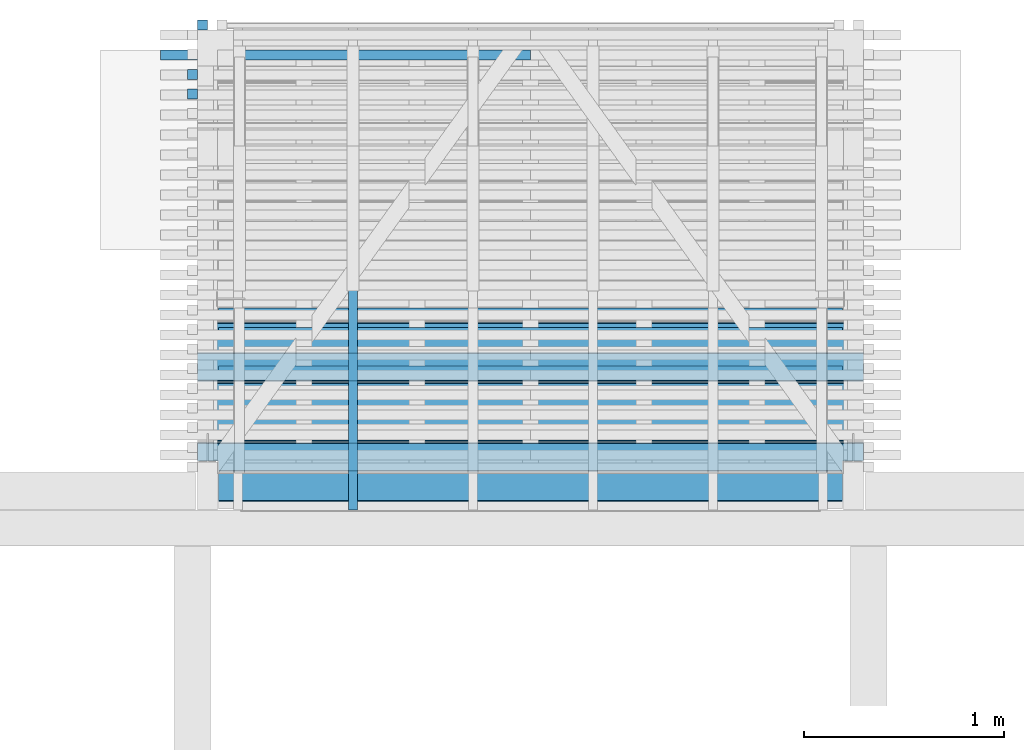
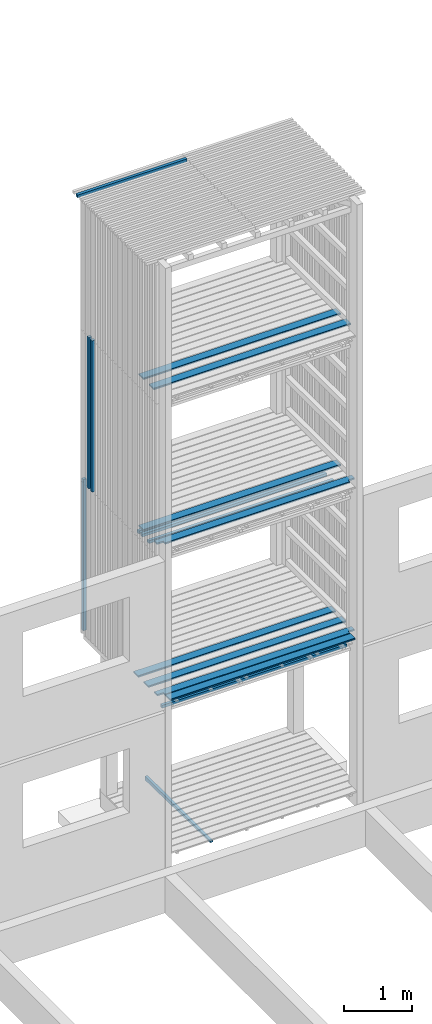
# One storey, part 15 of 182: 17 beams.
"""IFC2X3 building model written with IfcOpenShell, lengths in metres."""

from ifc_helpers import new_model, si_unit, frame, origin, place, context, project, spatial, faceted_brep, element, save


model = new_model("IFC2X3")

# Units and contexts
model_context = context("Model", 3, precision=1e-06, world=origin())
ifc_project = project(units=[si_unit("LENGTHUNIT", "METRE"), si_unit("PLANEANGLEUNIT", "RADIAN")], contexts=[model_context])

# Site, building, storey
site = spatial("IfcSite", under=ifc_project, CompositionType="ELEMENT")
building = spatial("IfcBuilding", under=site, CompositionType="ELEMENT")
storey = spatial("IfcBuildingStorey", under=building, Name="vs", CompositionType="ELEMENT", Elevation=-0.85)

# Beams
placement = place(None, origin())
beam_1_placement = place(placement, frame((6.539197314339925, 11.358202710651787, 5.167999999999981), z_axis=(0.0, 0.0, 1.0), x_axis=(-1.0, -1e-15, 0.0)))
element("IfcBeam", 1, at=beam_1_placement, inside=storey, Name="Bardage", context=model_context, shape_type="Brep", body=[
    faceted_brep([(3.120000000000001, 0.024999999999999, -0.025), (3.120000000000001, -0.025000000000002, -0.025), (-3e-15, -0.025000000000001, -0.025), (-3e-15, 0.025000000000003, -0.025), (-3e-15, -0.025000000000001, -0.025), (3.120000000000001, -0.025000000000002, -0.025), (3.120000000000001, -0.025000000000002, 0.025000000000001), (-3e-15, -0.025000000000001, 0.025000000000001), (3.120000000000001, -0.025000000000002, -0.025), (3.120000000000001, 0.024999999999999, -0.025), (3.120000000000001, 0.024999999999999, 0.025000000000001), (3.120000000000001, -0.025000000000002, 0.025000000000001), (3.120000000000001, 0.024999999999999, 0.025000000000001), (3.120000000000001, 0.024999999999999, -0.025), (-3e-15, 0.025000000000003, -0.025), (-3e-15, 0.025000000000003, 0.025000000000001), (-3e-15, -0.025000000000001, 0.025000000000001), (3.120000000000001, -0.025000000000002, 0.025000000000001), (3.120000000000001, 0.024999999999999, 0.025000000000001), (-3e-15, 0.025000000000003, 0.025000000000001), (-3e-15, -0.025000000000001, -0.025), (-3e-15, -0.025000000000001, 0.025000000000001), (-3e-15, 0.025000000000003, 0.025000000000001), (-3e-15, 0.025000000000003, -0.025)], [[[0, 1, 2, 3]], [[4, 5, 6, 7]], [[8, 9, 10, 11]], [[12, 13, 14, 15]], [[16, 17, 18, 19]], [[20, 21, 22, 23]]]),
])
beam_2_placement = place(placement, frame((4.092197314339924, 10.470077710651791, -0.015599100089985), z_axis=(0.0, 0.0, 1.0), x_axis=(0.0, 1.0, 0.0)))
element("IfcBeam", 2, at=beam_2_placement, inside=storey, Name="Calage", context=model_context, shape_type="Brep", body=[
    faceted_brep([(0.0, 0.022499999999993, 0.002600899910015), (1.91000000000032, 0.022499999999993, -0.035599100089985), (1.91000000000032, -0.022500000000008, -0.035599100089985), (0.0, -0.022500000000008, 0.002600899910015), (0.0, -0.022500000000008, 0.035599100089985), (0.0, 0.022499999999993, 0.035599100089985), (0.0, 0.022499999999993, 0.002600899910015), (0.0, -0.022500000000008, 0.002600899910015), (0.0, 0.022499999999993, 0.035599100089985), (0.0, -0.022500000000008, 0.035599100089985), (1.91000000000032, -0.022500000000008, 0.035599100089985), (1.91000000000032, 0.022499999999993, 0.035599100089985), (0.0, 0.022499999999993, 0.002600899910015), (0.0, 0.022499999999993, 0.035599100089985), (1.91000000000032, 0.022499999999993, 0.035599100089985), (1.91000000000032, 0.022499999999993, -0.035599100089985), (1.91000000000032, 0.022499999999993, -0.035599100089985), (1.91000000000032, 0.022499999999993, 0.035599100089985), (1.91000000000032, -0.022500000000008, 0.035599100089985), (1.91000000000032, -0.022500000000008, -0.035599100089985), (1.91000000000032, -0.022500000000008, -0.035599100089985), (1.91000000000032, -0.022500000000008, 0.035599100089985), (0.0, -0.022500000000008, 0.035599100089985), (0.0, -0.022500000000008, 0.002600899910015)], [[[0, 1, 2, 3]], [[4, 5, 6, 7]], [[8, 9, 10, 11]], [[12, 13, 14, 15]], [[16, 17, 18, 19]], [[20, 21, 22, 23]]]),
])
beam_3_placement = place(placement, frame((6.644197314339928, 10.734577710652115, 2.733499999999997), z_axis=(0.0, 0.0, 1.0), x_axis=(-1.0, 0.0, 0.0)))
element("IfcBeam", 3, at=beam_3_placement, inside=storey, Name="Caillebotis", context=model_context, shape_type="Brep", body=[
    faceted_brep([(0.0, -0.072499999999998, -0.0135), (0.0, -0.072499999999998, 0.008500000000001), (0.0, -0.067499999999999, 0.0135), (0.0, 0.019500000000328, 0.0135), (0.0, 0.019500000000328, -0.0135), (3.329999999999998, -0.067499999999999, 0.0135), (3.329999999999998, 0.019500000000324, 0.0135), (3.225000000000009, 0.019500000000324, 0.0135), (3.225000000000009, 0.067500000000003, 0.0135), (0.105000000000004, 0.067500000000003, 0.0135), (0.105000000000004, 0.019500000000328, 0.0135), (0.0, 0.019500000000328, 0.0135), (0.0, -0.067499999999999, 0.0135), (0.105000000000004, 0.019500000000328, 0.0135), (0.105000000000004, 0.067500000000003, 0.0135), (0.105000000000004, 0.072500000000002, 0.0085), (0.105000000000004, 0.072500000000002, -0.0135), (0.105000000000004, 0.019500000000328, -0.0135), (0.105000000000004, 0.072500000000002, 0.0085), (0.105000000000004, 0.067500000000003, 0.0135), (3.225000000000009, 0.067500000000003, 0.0135), (3.225000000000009, 0.072500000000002, 0.0085), (0.105000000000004, 0.072500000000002, -0.0135), (0.105000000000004, 0.072500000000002, 0.0085), (3.225000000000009, 0.072500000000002, 0.0085), (3.225000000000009, 0.072500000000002, -0.0135), (3.225000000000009, 0.072500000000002, -0.0135), (3.225000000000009, 0.072500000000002, 0.0085), (3.225000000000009, 0.067500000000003, 0.0135), (3.225000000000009, 0.019500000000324, 0.0135), (3.225000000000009, 0.019500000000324, -0.0135), (3.225000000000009, 0.019500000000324, -0.0135), (3.225000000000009, 0.019500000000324, 0.0135), (3.329999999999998, 0.019500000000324, 0.0135), (3.329999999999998, 0.019500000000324, -0.0135), (3.329999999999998, -0.072499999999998, 0.008500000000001), (3.329999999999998, -0.072499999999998, -0.0135), (3.329999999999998, 0.019500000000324, -0.0135), (3.329999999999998, 0.019500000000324, 0.0135), (3.329999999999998, -0.067499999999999, 0.0135), (3.329999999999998, -0.072499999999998, 0.008500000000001), (3.329999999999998, -0.067499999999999, 0.0135), (0.0, -0.067499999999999, 0.0135), (0.0, -0.072499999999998, 0.008500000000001), (3.329999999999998, -0.072499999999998, -0.0135), (3.329999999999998, -0.072499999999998, 0.008500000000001), (0.0, -0.072499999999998, 0.008500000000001), (0.0, -0.072499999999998, -0.0135), (0.105000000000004, 0.019500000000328, -0.0135), (0.105000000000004, 0.072500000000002, -0.0135), (3.225000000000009, 0.072500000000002, -0.0135), (3.225000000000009, 0.019500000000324, -0.0135), (3.329999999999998, 0.019500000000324, -0.0135), (3.329999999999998, -0.072499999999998, -0.0135), (0.0, -0.072499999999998, -0.0135), (0.0, 0.019500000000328, -0.0135), (0.0, 0.019500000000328, 0.0135), (0.105000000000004, 0.019500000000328, 0.0135), (0.105000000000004, 0.019500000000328, -0.0135), (0.0, 0.019500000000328, -0.0135)], [[[0, 1, 2, 3, 4]], [[5, 6, 7, 8, 9, 10, 11, 12]], [[13, 14, 15, 16, 17]], [[18, 19, 20, 21]], [[22, 23, 24, 25]], [[26, 27, 28, 29, 30]], [[31, 32, 33, 34]], [[35, 36, 37, 38, 39]], [[40, 41, 42, 43]], [[44, 45, 46, 47]], [[48, 49, 50, 51, 52, 53, 54, 55]], [[56, 57, 58, 59]]]),
])
beam_4_placement = place(placement, frame((6.644197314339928, 10.884577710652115, 8.13349999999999), z_axis=(0.0, 0.0, 1.0), x_axis=(-1.0, -2e-15, 0.0)))
element("IfcBeam", 4, at=beam_4_placement, inside=storey, Name="Caillebotis", context=model_context, shape_type="Brep", body=[
    faceted_brep([(3.329999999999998, -0.072500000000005, -0.013500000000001), (3.329999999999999, 0.072499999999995, -0.013500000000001), (3.329999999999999, 0.072499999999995, 0.008499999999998), (3.329999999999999, 0.067499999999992, 0.013499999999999), (3.329999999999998, -0.067500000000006, 0.013499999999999), (3.329999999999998, -0.072500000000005, 0.0085), (0.0, -0.072500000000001, 0.0085), (0.0, -0.067499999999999, 0.013499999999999), (0.0, 0.067500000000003, 0.013499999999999), (0.0, 0.072500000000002, 0.008499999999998), (0.0, 0.072500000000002, -0.013500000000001), (0.0, -0.072500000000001, -0.013500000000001), (3.329999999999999, 0.072499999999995, 0.008499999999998), (3.329999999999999, 0.072499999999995, -0.013500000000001), (0.0, 0.072500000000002, -0.013500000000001), (0.0, 0.072500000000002, 0.008499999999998), (3.329999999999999, 0.067499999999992, 0.013499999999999), (3.329999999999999, 0.072499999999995, 0.008499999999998), (0.0, 0.072500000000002, 0.008499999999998), (0.0, 0.067500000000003, 0.013499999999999), (3.329999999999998, -0.067500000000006, 0.013499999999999), (3.329999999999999, 0.067499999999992, 0.013499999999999), (0.0, 0.067500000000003, 0.013499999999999), (0.0, -0.067499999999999, 0.013499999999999), (3.329999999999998, -0.072500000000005, 0.0085), (3.329999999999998, -0.067500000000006, 0.013499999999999), (0.0, -0.067499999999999, 0.013499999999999), (0.0, -0.072500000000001, 0.0085), (3.329999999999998, -0.072500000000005, -0.013500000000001), (3.329999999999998, -0.072500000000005, 0.0085), (0.0, -0.072500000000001, 0.0085), (0.0, -0.072500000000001, -0.013500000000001), (0.0, 0.072500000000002, -0.013500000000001), (3.329999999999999, 0.072499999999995, -0.013500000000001), (3.329999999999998, -0.072500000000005, -0.013500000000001), (0.0, -0.072500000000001, -0.013500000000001)], [[[0, 1, 2, 3, 4, 5]], [[6, 7, 8, 9, 10, 11]], [[12, 13, 14, 15]], [[16, 17, 18, 19]], [[20, 21, 22, 23]], [[24, 25, 26, 27]], [[28, 29, 30, 31]], [[32, 33, 34, 35]]]),
])
beam_5_placement = place(placement, frame((6.539197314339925, 10.776952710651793, 2.467999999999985), z_axis=(0.0, 0.0, 1.0), x_axis=(-1.0, 0.0, 0.0)))
element("IfcBeam", 5, at=beam_5_placement, inside=storey, Name="Bardage", context=model_context, shape_type="Brep", body=[
    faceted_brep([(3.120000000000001, 0.025000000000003, -0.025), (3.120000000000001, -0.024999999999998, -0.025), (-3e-15, -0.024999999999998, -0.025), (-3e-15, 0.025000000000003, -0.025), (-3e-15, -0.024999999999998, -0.025), (3.120000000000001, -0.024999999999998, -0.025), (3.120000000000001, -0.024999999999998, 0.025), (-3e-15, -0.024999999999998, 0.025), (3.120000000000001, -0.024999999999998, -0.025), (3.120000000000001, 0.025000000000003, -0.025), (3.120000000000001, 0.025000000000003, 0.025), (3.120000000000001, -0.024999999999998, 0.025), (3.120000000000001, 0.025000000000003, 0.025), (3.120000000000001, 0.025000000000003, -0.025), (-3e-15, 0.025000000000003, -0.025), (-3e-15, 0.025000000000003, 0.025), (-3e-15, -0.024999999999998, 0.025), (3.120000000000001, -0.024999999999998, 0.025), (3.120000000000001, 0.025000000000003, 0.025), (-3e-15, 0.025000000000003, 0.025), (-3e-15, -0.024999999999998, -0.025), (-3e-15, -0.024999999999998, 0.025), (-3e-15, 0.025000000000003, 0.025), (-3e-15, 0.025000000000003, -0.025)], [[[0, 1, 2, 3]], [[4, 5, 6, 7]], [[8, 9, 10, 11]], [[12, 13, 14, 15]], [[16, 17, 18, 19]], [[20, 21, 22, 23]]]),
])
beam_6_placement = place(placement, frame((6.644197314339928, 11.184577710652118, 8.13349999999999), z_axis=(0.0, 0.0, 1.0), x_axis=(-1.0, -2e-15, 0.0)))
element("IfcBeam", 6, at=beam_6_placement, inside=storey, Name="Caillebotis", context=model_context, shape_type="Brep", body=[
    faceted_brep([(3.329999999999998, -0.072500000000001, -0.013500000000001), (3.329999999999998, 0.072500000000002, -0.013500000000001), (3.329999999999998, 0.072499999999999, 0.008499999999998), (3.329999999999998, 0.0675, 0.013499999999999), (3.329999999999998, -0.067500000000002, 0.013499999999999), (3.329999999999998, -0.072500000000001, 0.0085), (0.0, -0.072499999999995, 0.0085), (0.0, -0.067499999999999, 0.013499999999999), (0.0, 0.067500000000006, 0.013499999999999), (0.0, 0.072500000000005, 0.008499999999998), (0.0, 0.072500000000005, -0.013500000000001), (0.0, -0.072499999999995, -0.013500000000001), (3.329999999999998, 0.072499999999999, 0.008499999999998), (3.329999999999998, 0.072500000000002, -0.013500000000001), (0.0, 0.072500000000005, -0.013500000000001), (0.0, 0.072500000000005, 0.008499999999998), (3.329999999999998, 0.0675, 0.013499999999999), (3.329999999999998, 0.072499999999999, 0.008499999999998), (0.0, 0.072500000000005, 0.008499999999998), (0.0, 0.067500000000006, 0.013499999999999), (3.329999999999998, -0.067500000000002, 0.013499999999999), (3.329999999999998, 0.0675, 0.013499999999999), (0.0, 0.067500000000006, 0.013499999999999), (0.0, -0.067499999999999, 0.013499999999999), (3.329999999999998, -0.072500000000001, 0.0085), (3.329999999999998, -0.067500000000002, 0.013499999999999), (0.0, -0.067499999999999, 0.013499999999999), (0.0, -0.072499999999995, 0.0085), (3.329999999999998, -0.072500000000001, -0.013500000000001), (3.329999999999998, -0.072500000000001, 0.0085), (0.0, -0.072499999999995, 0.0085), (0.0, -0.072499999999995, -0.013500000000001), (0.0, 0.072500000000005, -0.013500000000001), (3.329999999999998, 0.072500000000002, -0.013500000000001), (3.329999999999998, -0.072500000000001, -0.013500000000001), (0.0, -0.072499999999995, -0.013500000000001)], [[[0, 1, 2, 3, 4, 5]], [[6, 7, 8, 9, 10, 11]], [[12, 13, 14, 15]], [[16, 17, 18, 19]], [[20, 21, 22, 23]], [[24, 25, 26, 27]], [[28, 29, 30, 31]], [[32, 33, 34, 35]]]),
])
beam_7_placement = place(placement, frame((6.539197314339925, 10.584577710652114, 2.733499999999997), z_axis=(0.0, 0.0, 1.0), x_axis=(-1.0, 0.0, 0.0)))
element("IfcBeam", 7, at=beam_7_placement, inside=storey, Name="Caillebotis", context=model_context, shape_type="Brep", body=[
    faceted_brep([(-3e-15, -0.072500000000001, 0.008500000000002), (-3e-15, -0.067500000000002, 0.0135), (-3e-15, 0.067499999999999, 0.0135), (-3e-15, 0.072499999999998, 0.0085), (-3e-15, 0.072499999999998, -0.0135), (-3e-15, -0.072500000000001, -0.0135), (-3e-15, 0.072499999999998, -0.0135), (-3e-15, 0.072499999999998, 0.0085), (3.120000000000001, 0.072499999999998, 0.0085), (3.120000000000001, 0.072499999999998, -0.0135), (-3e-15, -0.072500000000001, -0.0135), (-3e-15, 0.072499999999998, -0.0135), (3.120000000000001, 0.072499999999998, -0.0135), (3.120000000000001, -0.072500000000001, -0.0135), (-3e-15, -0.072500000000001, 0.008500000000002), (-3e-15, -0.072500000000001, -0.0135), (3.120000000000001, -0.072500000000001, -0.0135), (3.120000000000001, -0.072500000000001, 0.008500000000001), (-3e-15, -0.067500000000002, 0.0135), (-3e-15, -0.072500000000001, 0.008500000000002), (3.120000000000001, -0.072500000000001, 0.008500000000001), (3.120000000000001, -0.067500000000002, 0.0135), (-3e-15, 0.067499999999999, 0.0135), (-3e-15, -0.067500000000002, 0.0135), (3.120000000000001, -0.067500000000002, 0.0135), (3.120000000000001, 0.067499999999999, 0.0135), (-3e-15, 0.072499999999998, 0.0085), (-3e-15, 0.067499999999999, 0.0135), (3.120000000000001, 0.067499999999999, 0.0135), (3.120000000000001, 0.072499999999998, 0.0085), (3.120000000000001, -0.072500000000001, -0.0135), (3.120000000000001, 0.072499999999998, -0.0135), (3.120000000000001, 0.072499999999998, 0.0085), (3.120000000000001, 0.067499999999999, 0.0135), (3.120000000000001, -0.067500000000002, 0.0135), (3.120000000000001, -0.072500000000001, 0.008500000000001)], [[[0, 1, 2, 3, 4, 5]], [[6, 7, 8, 9]], [[10, 11, 12, 13]], [[14, 15, 16, 17]], [[18, 19, 20, 21]], [[22, 23, 24, 25]], [[26, 27, 28, 29]], [[30, 31, 32, 33, 34, 35]]]),
])
beam_8_placement = place(placement, frame((6.539197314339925, 11.164452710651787, 5.167999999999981), z_axis=(0.0, 0.0, 1.0), x_axis=(-1.0, 0.0, 0.0)))
element("IfcBeam", 8, at=beam_8_placement, inside=storey, Name="Bardage", context=model_context, shape_type="Brep", body=[
    faceted_brep([(3.120000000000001, 0.025000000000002, -0.025), (3.120000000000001, -0.024999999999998, -0.025), (-3e-15, -0.024999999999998, -0.025), (-3e-15, 0.024999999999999, -0.025), (-3e-15, -0.024999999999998, -0.025), (3.120000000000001, -0.024999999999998, -0.025), (3.120000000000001, -0.024999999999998, 0.025000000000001), (-3e-15, -0.024999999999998, 0.025000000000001), (3.120000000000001, -0.024999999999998, -0.025), (3.120000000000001, 0.025000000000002, -0.025), (3.120000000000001, 0.025000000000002, 0.025000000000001), (3.120000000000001, -0.024999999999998, 0.025000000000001), (3.120000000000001, 0.025000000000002, 0.025000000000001), (3.120000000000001, 0.025000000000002, -0.025), (-3e-15, 0.024999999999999, -0.025), (-3e-15, 0.024999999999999, 0.025000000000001), (-3e-15, -0.024999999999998, 0.025000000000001), (3.120000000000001, -0.024999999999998, 0.025000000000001), (3.120000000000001, 0.025000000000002, 0.025000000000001), (-3e-15, 0.024999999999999, 0.025000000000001), (-3e-15, -0.024999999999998, -0.025), (-3e-15, -0.024999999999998, 0.025000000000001), (-3e-15, 0.024999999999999, 0.025000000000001), (-3e-15, 0.024999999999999, -0.025)], [[[0, 1, 2, 3]], [[4, 5, 6, 7]], [[8, 9, 10, 11]], [[12, 13, 14, 15]], [[16, 17, 18, 19]], [[20, 21, 22, 23]]]),
])
beam_9_placement = place(placement, frame((6.644197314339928, 11.184577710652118, 5.433499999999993), z_axis=(0.0, 0.0, 1.0), x_axis=(-1.0, 0.0, 0.0)))
element("IfcBeam", 9, at=beam_9_placement, inside=storey, Name="Caillebotis", context=model_context, shape_type="Brep", body=[
    faceted_brep([(3.329999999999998, -0.072499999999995, -0.0135), (3.329999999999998, 0.072500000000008, -0.0135), (3.329999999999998, 0.072500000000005, 0.0085), (3.329999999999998, 0.067500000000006, 0.0135), (3.329999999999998, -0.067499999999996, 0.0135), (3.329999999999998, -0.072499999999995, 0.008500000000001), (0.0, -0.072499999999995, 0.008500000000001), (0.0, -0.067499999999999, 0.0135), (0.0, 0.067500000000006, 0.0135), (0.0, 0.072500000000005, 0.0085), (0.0, 0.072500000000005, -0.0135), (0.0, -0.072499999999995, -0.0135), (3.329999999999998, 0.072500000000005, 0.0085), (3.329999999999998, 0.072500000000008, -0.0135), (0.0, 0.072500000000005, -0.0135), (0.0, 0.072500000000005, 0.0085), (3.329999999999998, 0.067500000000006, 0.0135), (3.329999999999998, 0.072500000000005, 0.0085), (0.0, 0.072500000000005, 0.0085), (0.0, 0.067500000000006, 0.0135), (3.329999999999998, -0.067499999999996, 0.0135), (3.329999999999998, 0.067500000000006, 0.0135), (0.0, 0.067500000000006, 0.0135), (0.0, -0.067499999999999, 0.0135), (3.329999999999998, -0.072499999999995, 0.008500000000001), (3.329999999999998, -0.067499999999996, 0.0135), (0.0, -0.067499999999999, 0.0135), (0.0, -0.072499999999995, 0.008500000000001), (3.329999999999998, -0.072499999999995, -0.0135), (3.329999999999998, -0.072499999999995, 0.008500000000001), (0.0, -0.072499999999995, 0.008500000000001), (0.0, -0.072499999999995, -0.0135), (0.0, 0.072500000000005, -0.0135), (3.329999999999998, 0.072500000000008, -0.0135), (3.329999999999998, -0.072499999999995, -0.0135), (0.0, -0.072499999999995, -0.0135)], [[[0, 1, 2, 3, 4, 5]], [[6, 7, 8, 9, 10, 11]], [[12, 13, 14, 15]], [[16, 17, 18, 19]], [[20, 21, 22, 23]], [[24, 25, 26, 27]], [[28, 29, 30, 31]], [[32, 33, 34, 35]]]),
])
beam_10_placement = place(placement, frame((6.644197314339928, 10.734577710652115, 5.433499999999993), z_axis=(0.0, 0.0, 1.0), x_axis=(-1.0, 0.0, 0.0)))
element("IfcBeam", 10, at=beam_10_placement, inside=storey, Name="Caillebotis", context=model_context, shape_type="Brep", body=[
    faceted_brep([(0.0, -0.072499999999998, -0.0135), (0.0, -0.072499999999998, 0.008500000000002), (0.0, -0.067499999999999, 0.0135), (0.0, 0.019500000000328, 0.0135), (0.0, 0.019500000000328, -0.0135), (3.329999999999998, -0.067499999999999, 0.0135), (3.329999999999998, 0.019500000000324, 0.0135), (3.225000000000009, 0.019500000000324, 0.0135), (3.225000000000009, 0.067500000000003, 0.0135), (0.105000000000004, 0.067500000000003, 0.0135), (0.105000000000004, 0.019500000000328, 0.0135), (0.0, 0.019500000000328, 0.0135), (0.0, -0.067499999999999, 0.0135), (0.105000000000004, 0.019500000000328, 0.0135), (0.105000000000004, 0.067500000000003, 0.0135), (0.105000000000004, 0.072500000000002, 0.008500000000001), (0.105000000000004, 0.072500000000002, -0.0135), (0.105000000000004, 0.019500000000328, -0.0135), (0.105000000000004, 0.072500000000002, 0.008500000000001), (0.105000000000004, 0.067500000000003, 0.0135), (3.225000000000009, 0.067500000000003, 0.0135), (3.225000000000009, 0.072500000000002, 0.0085), (0.105000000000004, 0.072500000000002, -0.0135), (0.105000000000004, 0.072500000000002, 0.008500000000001), (3.225000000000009, 0.072500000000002, 0.0085), (3.225000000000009, 0.072500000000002, -0.0135), (3.225000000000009, 0.072500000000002, -0.0135), (3.225000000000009, 0.072500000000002, 0.0085), (3.225000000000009, 0.067500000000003, 0.0135), (3.225000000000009, 0.019500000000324, 0.0135), (3.225000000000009, 0.019500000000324, -0.0135), (3.225000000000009, 0.019500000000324, -0.0135), (3.225000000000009, 0.019500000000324, 0.0135), (3.329999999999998, 0.019500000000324, 0.0135), (3.329999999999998, 0.019500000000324, -0.0135), (3.329999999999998, -0.072499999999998, 0.008500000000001), (3.329999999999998, -0.072499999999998, -0.0135), (3.329999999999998, 0.019500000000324, -0.0135), (3.329999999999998, 0.019500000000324, 0.0135), (3.329999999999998, -0.067499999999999, 0.0135), (3.329999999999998, -0.072499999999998, 0.008500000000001), (3.329999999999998, -0.067499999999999, 0.0135), (0.0, -0.067499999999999, 0.0135), (0.0, -0.072499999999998, 0.008500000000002), (3.329999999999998, -0.072499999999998, -0.0135), (3.329999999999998, -0.072499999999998, 0.008500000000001), (0.0, -0.072499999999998, 0.008500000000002), (0.0, -0.072499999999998, -0.0135), (0.105000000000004, 0.019500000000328, -0.0135), (0.105000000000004, 0.072500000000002, -0.0135), (3.225000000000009, 0.072500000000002, -0.0135), (3.225000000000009, 0.019500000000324, -0.0135), (3.329999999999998, 0.019500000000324, -0.0135), (3.329999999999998, -0.072499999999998, -0.0135), (0.0, -0.072499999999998, -0.0135), (0.0, 0.019500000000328, -0.0135), (0.0, 0.019500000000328, 0.0135), (0.105000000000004, 0.019500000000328, 0.0135), (0.105000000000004, 0.019500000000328, -0.0135), (0.0, 0.019500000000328, -0.0135)], [[[0, 1, 2, 3, 4]], [[5, 6, 7, 8, 9, 10, 11, 12]], [[13, 14, 15, 16, 17]], [[18, 19, 20, 21]], [[22, 23, 24, 25]], [[26, 27, 28, 29, 30]], [[31, 32, 33, 34]], [[35, 36, 37, 38, 39]], [[40, 41, 42, 43]], [[44, 45, 46, 47]], [[48, 49, 50, 51, 52, 53, 54, 55]], [[56, 57, 58, 59]]]),
])
beam_11_placement = place(placement, frame((6.644197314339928, 11.334577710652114, 2.733499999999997), z_axis=(0.0, 0.0, 1.0), x_axis=(-1.0, 0.0, 0.0)))
element("IfcBeam", 11, at=beam_11_placement, inside=storey, Name="Caillebotis", context=model_context, shape_type="Brep", body=[
    faceted_brep([(3.329999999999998, -0.072499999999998, -0.0135), (3.329999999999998, 0.072500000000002, -0.0135), (3.329999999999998, 0.072500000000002, 0.0085), (3.329999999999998, 0.067500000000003, 0.0135), (3.329999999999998, -0.067500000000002, 0.0135), (3.329999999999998, -0.072499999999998, 0.008500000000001), (0.0, -0.072499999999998, 0.008500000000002), (0.0, -0.067500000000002, 0.0135), (0.0, 0.067499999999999, 0.013500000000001), (0.0, 0.072499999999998, 0.0085), (0.0, 0.072499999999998, -0.0135), (0.0, -0.072499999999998, -0.0135), (3.329999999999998, 0.072500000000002, 0.0085), (3.329999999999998, 0.072500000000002, -0.0135), (0.0, 0.072499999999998, -0.0135), (0.0, 0.072499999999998, 0.0085), (3.329999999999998, 0.067500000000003, 0.0135), (3.329999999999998, 0.072500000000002, 0.0085), (0.0, 0.072499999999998, 0.0085), (0.0, 0.067499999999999, 0.013500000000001), (3.329999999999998, -0.067500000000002, 0.0135), (3.329999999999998, 0.067500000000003, 0.0135), (0.0, 0.067499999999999, 0.013500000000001), (0.0, -0.067500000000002, 0.0135), (3.329999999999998, -0.072499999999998, 0.008500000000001), (3.329999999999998, -0.067500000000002, 0.0135), (0.0, -0.067500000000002, 0.0135), (0.0, -0.072499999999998, 0.008500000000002), (3.329999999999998, -0.072499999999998, -0.0135), (3.329999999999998, -0.072499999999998, 0.008500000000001), (0.0, -0.072499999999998, 0.008500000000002), (0.0, -0.072499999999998, -0.0135), (0.0, 0.072499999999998, -0.0135), (3.329999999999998, 0.072500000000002, -0.0135), (3.329999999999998, -0.072499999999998, -0.0135), (0.0, -0.072499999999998, -0.0135)], [[[0, 1, 2, 3, 4, 5]], [[6, 7, 8, 9, 10, 11]], [[12, 13, 14, 15]], [[16, 17, 18, 19]], [[20, 21, 22, 23]], [[24, 25, 26, 27]], [[28, 29, 30, 31]], [[32, 33, 34, 35]]]),
])
beam_12_placement = place(placement, frame((6.539197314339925, 11.455077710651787, 5.167999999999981), z_axis=(0.0, 0.0, 1.0), x_axis=(-1.0, -1e-15, 0.0)))
element("IfcBeam", 12, at=beam_12_placement, inside=storey, Name="Bardage", context=model_context, shape_type="Brep", body=[
    faceted_brep([(3.120000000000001, 0.025000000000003, -0.025), (3.120000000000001, -0.025000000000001, -0.025), (-3e-15, -0.024999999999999, -0.025), (-3e-15, 0.025000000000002, -0.025), (-3e-15, -0.024999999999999, -0.025), (3.120000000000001, -0.025000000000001, -0.025), (3.120000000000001, -0.025000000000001, 0.025000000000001), (-3e-15, -0.024999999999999, 0.025000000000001), (3.120000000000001, -0.025000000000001, -0.025), (3.120000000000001, 0.025000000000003, -0.025), (3.120000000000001, 0.025000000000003, 0.025000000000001), (3.120000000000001, -0.025000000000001, 0.025000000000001), (3.120000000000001, 0.025000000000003, 0.025000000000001), (3.120000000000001, 0.025000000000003, -0.025), (-3e-15, 0.025000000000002, -0.025), (-3e-15, 0.025000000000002, 0.025000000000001), (-3e-15, -0.024999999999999, 0.025000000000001), (3.120000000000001, -0.025000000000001, 0.025000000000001), (3.120000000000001, 0.025000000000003, 0.025000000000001), (-3e-15, 0.025000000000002, 0.025000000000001), (-3e-15, -0.024999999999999, -0.025), (-3e-15, -0.024999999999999, 0.025000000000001), (-3e-15, 0.025000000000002, 0.025000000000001), (-3e-15, 0.025000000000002, -0.025)], [[[0, 1, 2, 3]], [[4, 5, 6, 7]], [[8, 9, 10, 11]], [[12, 13, 14, 15]], [[16, 17, 18, 19]], [[20, 21, 22, 23]]]),
])
beam_13_placement = place(placement, frame((6.644197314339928, 11.034577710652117, 2.733499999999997), z_axis=(0.0, 0.0, 1.0), x_axis=(-1.0, -1e-15, 0.0)))
element("IfcBeam", 13, at=beam_13_placement, inside=storey, Name="Caillebotis", context=model_context, shape_type="Brep", body=[
    faceted_brep([(3.329999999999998, -0.072500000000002, -0.0135), (3.329999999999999, 0.072500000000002, -0.0135), (3.329999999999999, 0.072500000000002, 0.0085), (3.329999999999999, 0.067499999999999, 0.0135), (3.329999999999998, -0.067499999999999, 0.0135), (3.329999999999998, -0.072500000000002, 0.008500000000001), (0.0, -0.072499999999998, 0.008500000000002), (0.0, -0.067499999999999, 0.0135), (0.0, 0.067500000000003, 0.0135), (0.0, 0.072500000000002, 0.0085), (0.0, 0.072500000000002, -0.0135), (0.0, -0.072499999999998, -0.0135), (3.329999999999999, 0.072500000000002, 0.0085), (3.329999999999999, 0.072500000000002, -0.0135), (0.0, 0.072500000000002, -0.0135), (0.0, 0.072500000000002, 0.0085), (3.329999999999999, 0.067499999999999, 0.0135), (3.329999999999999, 0.072500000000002, 0.0085), (0.0, 0.072500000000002, 0.0085), (0.0, 0.067500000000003, 0.0135), (3.329999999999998, -0.067499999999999, 0.0135), (3.329999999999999, 0.067499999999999, 0.0135), (0.0, 0.067500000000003, 0.0135), (0.0, -0.067499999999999, 0.0135), (3.329999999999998, -0.072500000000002, 0.008500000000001), (3.329999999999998, -0.067499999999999, 0.0135), (0.0, -0.067499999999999, 0.0135), (0.0, -0.072499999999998, 0.008500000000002), (3.329999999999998, -0.072500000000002, -0.0135), (3.329999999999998, -0.072500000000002, 0.008500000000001), (0.0, -0.072499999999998, 0.008500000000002), (0.0, -0.072499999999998, -0.0135), (0.0, 0.072500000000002, -0.0135), (3.329999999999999, 0.072500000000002, -0.0135), (3.329999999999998, -0.072500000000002, -0.0135), (0.0, -0.072499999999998, -0.0135)], [[[0, 1, 2, 3, 4, 5]], [[6, 7, 8, 9, 10, 11]], [[12, 13, 14, 15]], [[16, 17, 18, 19]], [[20, 21, 22, 23]], [[24, 25, 26, 27]], [[28, 29, 30, 31]], [[32, 33, 34, 35]]]),
])
beam_14_placement = place(placement, frame((3.289197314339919, 12.550532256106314, 5.274999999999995), z_axis=(1.0, 0.0, 0.0), x_axis=(0.0, 0.0, 1.0)))
element("IfcBeam", 14, at=beam_14_placement, inside=storey, Name="Bardage", context=model_context, shape_type="Brep", body=[
    faceted_brep([(2.699999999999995, 0.025000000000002, 0.025000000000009), (2.699999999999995, -0.025000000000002, 0.025000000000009), (2.699999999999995, -0.025000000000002, -0.025000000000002), (2.699999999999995, 0.025000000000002, -0.025000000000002), (1e-15, 0.025000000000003, 0.025000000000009), (2.699999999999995, 0.025000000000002, 0.025000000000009), (2.699999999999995, 0.025000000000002, -0.025000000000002), (1e-15, 0.025000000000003, -0.025000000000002), (1e-15, -0.025000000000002, 0.025000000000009), (1e-15, 0.025000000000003, 0.025000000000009), (1e-15, 0.025000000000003, -0.025000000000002), (1e-15, -0.025000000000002, -0.025000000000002), (1e-15, 0.025000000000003, 0.025000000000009), (1e-15, -0.025000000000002, 0.025000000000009), (2.699999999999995, -0.025000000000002, 0.025000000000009), (2.699999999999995, 0.025000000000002, 0.025000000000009), (1e-15, -0.025000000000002, 0.025000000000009), (1e-15, -0.025000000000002, -0.025000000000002), (2.699999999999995, -0.025000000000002, -0.025000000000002), (2.699999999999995, -0.025000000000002, 0.025000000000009), (1e-15, -0.025000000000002, -0.025000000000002), (1e-15, 0.025000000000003, -0.025000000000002), (2.699999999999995, 0.025000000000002, -0.025000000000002), (2.699999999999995, -0.025000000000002, -0.025000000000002)], [[[0, 1, 2, 3]], [[4, 5, 6, 7]], [[8, 9, 10, 11]], [[12, 13, 14, 15]], [[16, 17, 18, 19]], [[20, 21, 22, 23]]]),
])
beam_15_placement = place(placement, frame((3.339197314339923, 12.895077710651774, 2.575000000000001), z_axis=(0.0, -1.0, 0.0), x_axis=(0.0, 0.0, 1.0)))
element("IfcBeam", 15, at=beam_15_placement, inside=storey, Name="Bardage", context=model_context, shape_type="Brep", body=[
    faceted_brep([(0.0, -0.025000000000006, 0.025000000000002), (0.0, 0.024999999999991, 0.025000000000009), (0.0, 0.025000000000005, -0.024999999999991), (0.0, -0.024999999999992, -0.024999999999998), (2.699961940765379, 0.025000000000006, -0.024999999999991), (2.699961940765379, 0.024999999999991, 0.025000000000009), (2.699961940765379, -0.025000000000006, 0.025000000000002), (2.699961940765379, -0.024999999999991, -0.024999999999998), (0.0, -0.024999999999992, -0.024999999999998), (0.0, 0.025000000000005, -0.024999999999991), (2.699961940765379, 0.025000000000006, -0.024999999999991), (2.699961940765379, -0.024999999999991, -0.024999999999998), (2.699961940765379, 0.025000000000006, -0.024999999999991), (0.0, 0.025000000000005, -0.024999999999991), (0.0, 0.024999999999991, 0.025000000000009), (2.699961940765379, 0.024999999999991, 0.025000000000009), (2.699961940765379, 0.024999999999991, 0.025000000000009), (0.0, 0.024999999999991, 0.025000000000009), (0.0, -0.025000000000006, 0.025000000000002), (2.699961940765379, -0.025000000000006, 0.025000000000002), (2.699961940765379, -0.025000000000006, 0.025000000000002), (0.0, -0.025000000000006, 0.025000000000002), (0.0, -0.024999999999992, -0.024999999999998), (2.699961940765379, -0.024999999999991, -0.024999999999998)], [[[0, 1, 2, 3]], [[4, 5, 6, 7]], [[8, 9, 10, 11]], [[12, 13, 14, 15]], [[16, 17, 18, 19]], [[20, 21, 22, 23]]]),
])
beam_16_placement = place(placement, frame((4.979197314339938, 12.745077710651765, 10.47999999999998), z_axis=(0.0, 0.0, 1.0), x_axis=(-1.0, 0.0, 0.0)))
element("IfcBeam", 16, at=beam_16_placement, inside=storey, Name="Bardage", context=model_context, shape_type="Brep", body=[
    faceted_brep([(1.850000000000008, -0.024999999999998, -0.024999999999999), (1.850000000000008, -0.024999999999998, 0.025000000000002), (-1e-15, -0.024999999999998, 0.025000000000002), (-1e-15, -0.024999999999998, -0.024999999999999), (1.850000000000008, -0.024999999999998, 0.025000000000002), (1.850000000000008, -0.024999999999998, -0.024999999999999), (1.850000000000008, 0.024999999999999, -0.024999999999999), (1.850000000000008, 0.024999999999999, 0.025000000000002), (1.850000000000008, 0.024999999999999, -0.024999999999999), (1.850000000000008, -0.024999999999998, -0.024999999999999), (-1e-15, -0.024999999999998, -0.024999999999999), (-1e-15, 0.024999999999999, -0.024999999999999), (1.850000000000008, 0.024999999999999, 0.025000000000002), (1.850000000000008, 0.024999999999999, -0.024999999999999), (-1e-15, 0.024999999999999, -0.024999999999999), (-1e-15, 0.024999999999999, 0.025000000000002), (-1e-15, -0.024999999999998, 0.025000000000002), (1.850000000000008, -0.024999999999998, 0.025000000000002), (1.850000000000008, 0.024999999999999, 0.025000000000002), (-1e-15, 0.024999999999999, 0.025000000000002), (-1e-15, -0.024999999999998, -0.024999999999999), (-1e-15, -0.024999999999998, 0.025000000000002), (-1e-15, 0.024999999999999, 0.025000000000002), (-1e-15, 0.024999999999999, -0.024999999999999)], [[[0, 1, 2, 3]], [[4, 5, 6, 7]], [[8, 9, 10, 11]], [[12, 13, 14, 15]], [[16, 17, 18, 19]], [[20, 21, 22, 23]]]),
])
beam_17_placement = place(placement, frame((3.289197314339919, 12.648714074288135, 5.274999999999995), z_axis=(1.0, 0.0, 0.0), x_axis=(0.0, 0.0, 1.0)))
element("IfcBeam", 17, at=beam_17_placement, inside=storey, Name="Bardage", context=model_context, shape_type="Brep", body=[
    faceted_brep([(2.699999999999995, 0.025000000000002, 0.025000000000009), (2.699999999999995, -0.024999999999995, 0.025000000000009), (2.699999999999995, -0.024999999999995, -0.025000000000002), (2.699999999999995, 0.025000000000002, -0.025000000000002), (1e-15, 0.025000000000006, 0.025000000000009), (2.699999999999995, 0.025000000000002, 0.025000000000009), (2.699999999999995, 0.025000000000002, -0.025000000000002), (1e-15, 0.025000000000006, -0.025000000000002), (1e-15, -0.024999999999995, 0.025000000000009), (1e-15, 0.025000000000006, 0.025000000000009), (1e-15, 0.025000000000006, -0.025000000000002), (1e-15, -0.024999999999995, -0.025000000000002), (1e-15, 0.025000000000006, 0.025000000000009), (1e-15, -0.024999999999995, 0.025000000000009), (2.699999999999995, -0.024999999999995, 0.025000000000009), (2.699999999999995, 0.025000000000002, 0.025000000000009), (1e-15, -0.024999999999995, 0.025000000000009), (1e-15, -0.024999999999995, -0.025000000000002), (2.699999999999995, -0.024999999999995, -0.025000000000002), (2.699999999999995, -0.024999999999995, 0.025000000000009), (1e-15, -0.024999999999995, -0.025000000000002), (1e-15, 0.025000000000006, -0.025000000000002), (2.699999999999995, 0.025000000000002, -0.025000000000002), (2.699999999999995, -0.024999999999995, -0.025000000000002)], [[[0, 1, 2, 3]], [[4, 5, 6, 7]], [[8, 9, 10, 11]], [[12, 13, 14, 15]], [[16, 17, 18, 19]], [[20, 21, 22, 23]]]),
])

save(model, "model.ifc")
